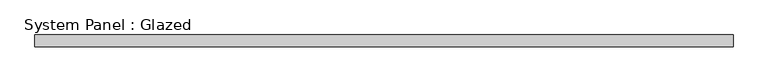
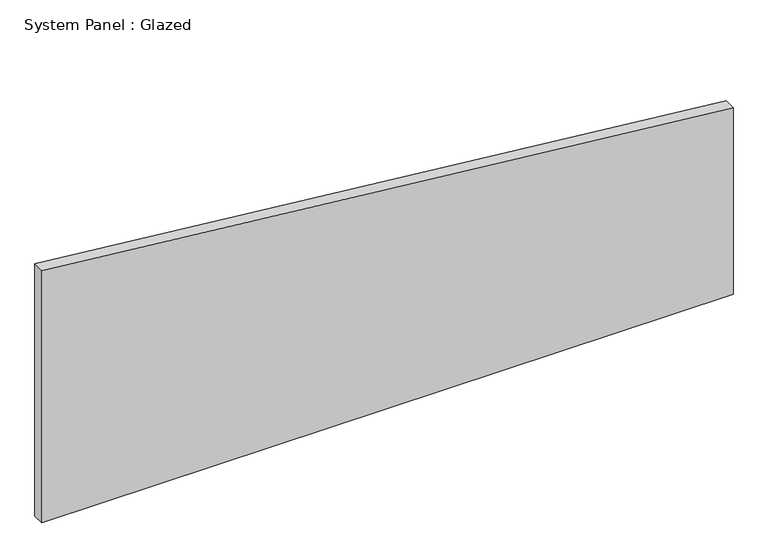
"""IFC4 building model written with IfcOpenShell, lengths in millimetres: plate geometry, System Panel : Glazed."""

from ifc_helpers import new_model, si_unit, frame, origin, place, context, project, spatial, polyline, outline, extrude, source, transform, mapped, element, save


def system_panel_glazed_4bc1ea2d(model_context):
    return source(origin(), model_context, "Body", "SweptSolid", [
        extrude(outline(polyline([(0.0, -723.3695652), (0.0, 723.3695652), (412.732568, 723.3695652), (558.2018033, -723.3695652), (0.0, -723.3695652)])), frame((0.0, 24.5, 0.0), z_axis=(0.0, 1.0, 0.0), x_axis=(0.0, 0.0, 1.0)), (0.0, 0.0, 1.0), 25.0),
    ])


if __name__ == "__main__":
    model = new_model("IFC4")
    model_context = context("Model", 3, world=origin())
    ifc_project = project(units=[si_unit("LENGTHUNIT", "METRE", prefix="MILLI")], contexts=[model_context])
    site = spatial("IfcSite", under=ifc_project)
    building = spatial("IfcBuilding", under=site)
    placement = place(None, origin())
    system_panel_glazed_shape = system_panel_glazed_4bc1ea2d(model_context)
    element("IfcPlate", 1, ObjectType="System Panel : Glazed", at=placement, inside=building, context=model_context, shape_type="MappedRepresentation", body=[
        mapped(system_panel_glazed_shape, transform((0.0, 0.0, 0.0), x_axis=(1.0, 0.0, 0.0), y_axis=(0.0, 1.0, 0.0), z_axis=(0.0, 0.0, 1.0))),
    ])
    save(model, "model.ifc")
